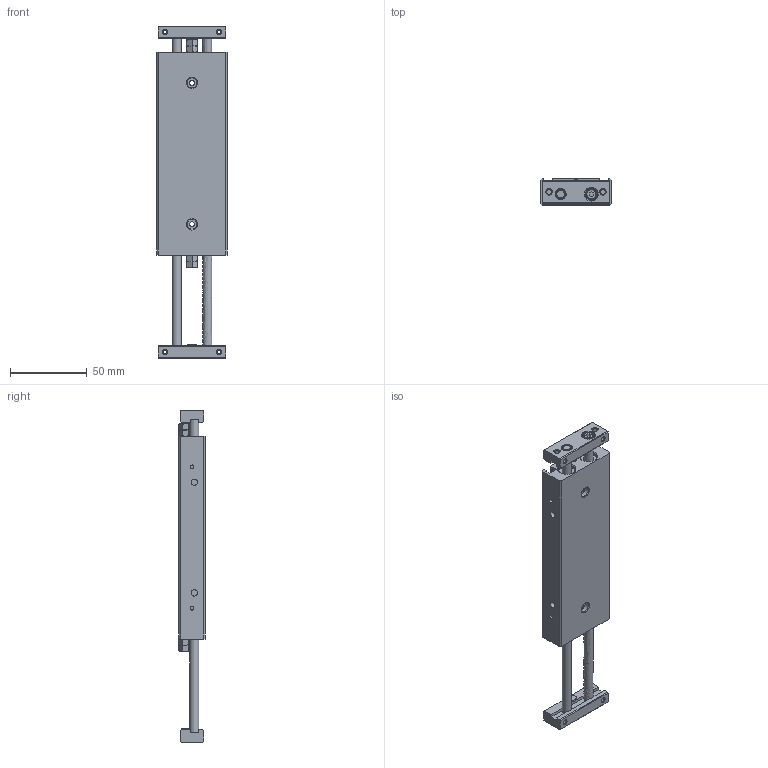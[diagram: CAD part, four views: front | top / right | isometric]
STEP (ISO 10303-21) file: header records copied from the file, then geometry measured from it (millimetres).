
FILE_DESCRIPTION((''),'2;1');
FILE_NAME('I:\3D電子目錄\氣缸\STX\STX\STX10\STX10x50.stp','2007-10-01T16:51:54',('Administrator'),(''),'Autodesk Inventor 11','Autodesk Inventor 11','');
FILE_SCHEMA(('AUTOMOTIVE_DESIGN { 1 0 10303 214 1 1 1 1 }'));
Length unit declared in the file: millimetre
Products named in the file (1): STX10
Bounding box: 46 x 17.04 x 216 mm (x, y, z)
Volume: 106029.8 mm3; surface area: 31529.4 mm2
Topology: 1 solids, 1 shells, 269 faces, 644 edges, 400 vertices
Faces by surface type: plane 135, cone 72, bspline 36, cylinder 22, torus 4
Full cylindrical faces by diameter (mm): 2.459 x2, 4.134 x2, 6 x6, 6.2 x2, 6.5 x2, 7 x2, 8 x2, 11 x2, 12 x2
Entity records: 7637 total; most frequent: CARTESIAN_POINT 2109, ORIENTED_EDGE 1082, DIRECTION 1076, EDGE_CURVE 541, AXIS2_PLACEMENT_3D 405, EDGE_LOOP 399, VERTEX_POINT 374, FACE_OUTER_BOUND 269
